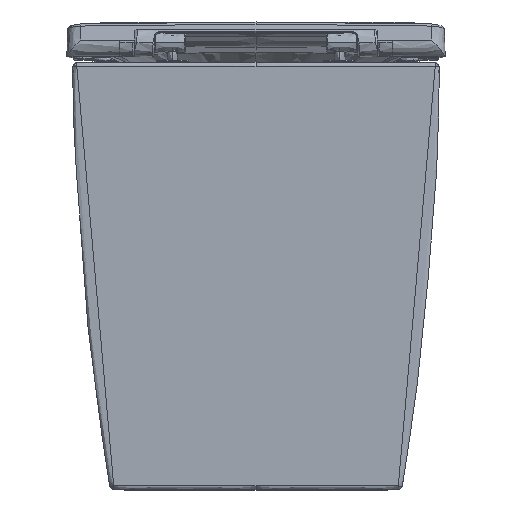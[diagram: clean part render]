
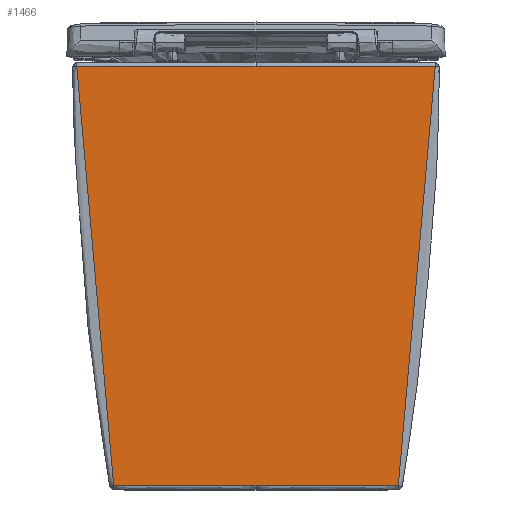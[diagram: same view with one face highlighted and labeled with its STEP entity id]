
A CAD part, left-side view. The second image highlights one B-rep face of the part: STEP entity #1466.
In plain terms, the highlighted planar face has unit normal (1, 0, 0).
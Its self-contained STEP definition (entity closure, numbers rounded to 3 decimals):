
#1466=ADVANCED_FACE('',(#2562),#16521,.T.);
#2562=FACE_OUTER_BOUND('',#3701,.T.);
#3701=EDGE_LOOP('',(#8839,#8840,#8841,#8842,#8843,#8844));
#8839=ORIENTED_EDGE('',*,*,#11644,.T.);
#8840=ORIENTED_EDGE('',*,*,#11643,.F.);
#8841=ORIENTED_EDGE('',*,*,#11614,.F.);
#8842=ORIENTED_EDGE('',*,*,#11648,.F.);
#8843=ORIENTED_EDGE('',*,*,#11647,.T.);
#8844=ORIENTED_EDGE('',*,*,#11636,.T.);
#11614=EDGE_CURVE('',#16241,#16250,#14437,.T.);
#11636=EDGE_CURVE('',#16258,#16263,#14442,.T.);
#11643=EDGE_CURVE('',#16250,#16252,#14449,.T.);
#11644=EDGE_CURVE('',#16263,#16252,#14450,.T.);
#11647=EDGE_CURVE('',#16253,#16258,#14451,.T.);
#11648=EDGE_CURVE('',#16253,#16241,#14452,.T.);
#14437=B_SPLINE_CURVE_WITH_KNOTS('',3,(#223140,#223141,#223142,#223143,
#223144,#223145,#223146,#223147,#223148,#223149,#223150,#223151,#223152,
#223153,#223154,#223155),.UNSPECIFIED.,.F.,.F.,(4,3,3,3,3,4),(769.304,
818.065,870.827,976.352,1081.88,1183.358),
 .UNSPECIFIED.);
#14442=B_SPLINE_CURVE_WITH_KNOTS('',3,(#223495,#223496,#223497,#223498,
#223499,#223500,#223501,#223502,#223503,#223504,#223505,#223506,#223507,
#223508,#223509,#223510),.UNSPECIFIED.,.F.,.F.,(4,3,3,3,3,4),(769.304,
818.065,870.827,976.352,1081.88,1183.358),
 .UNSPECIFIED.);
#14449=B_SPLINE_CURVE_WITH_KNOTS('',3,(#223647,#223648,#223649,#223650),
 .UNSPECIFIED.,.F.,.F.,(4,4),(1456.004,1595.694),
 .UNSPECIFIED.);
#14450=B_SPLINE_CURVE_WITH_KNOTS('',3,(#223651,#223652,#223653,#223654),
 .UNSPECIFIED.,.F.,.F.,(4,4),(-1735.384,-1595.694),
 .UNSPECIFIED.);
#14451=B_SPLINE_CURVE_WITH_KNOTS('',3,(#224025,#224026,#224027,#224028,
#224029,#224030,#224031),.UNSPECIFIED.,.F.,.F.,(4,3,4),(-866.009,
-720.221,-690.067),.UNSPECIFIED.);
#14452=B_SPLINE_CURVE_WITH_KNOTS('',3,(#224032,#224033,#224034,#224035,
#224036,#224037,#224038),.UNSPECIFIED.,.F.,.F.,(4,3,4),(866.009,
1011.796,1041.95),.UNSPECIFIED.);
#16241=VERTEX_POINT('',#222779);
#16250=VERTEX_POINT('',#222788);
#16252=VERTEX_POINT('',#222790);
#16253=VERTEX_POINT('',#222791);
#16258=VERTEX_POINT('',#222796);
#16263=VERTEX_POINT('',#222801);
#16521=PLANE('',#17684);
#17684=AXIS2_PLACEMENT_3D('',#222771,#17960,$);
#17960=DIRECTION('',(1.,0.,0.));
#222771=CARTESIAN_POINT('',(8.006,-440.548,161.24));
#222779=CARTESIAN_POINT('',(8.006,-85.099,157.12));
#222788=CARTESIAN_POINT('',(8.011,-121.35,-254.88));
#222790=CARTESIAN_POINT('',(8.011,-261.04,-254.88));
#222791=CARTESIAN_POINT('',(8.006,-261.04,157.12));
#222796=CARTESIAN_POINT('',(8.006,-436.981,157.12));
#222801=CARTESIAN_POINT('',(8.011,-400.73,-254.88));
#223140=CARTESIAN_POINT('',(8.006,-85.099,157.12));
#223141=CARTESIAN_POINT('',(8.006,-85.052,140.867));
#223142=CARTESIAN_POINT('',(8.006,-85.218,124.612));
#223143=CARTESIAN_POINT('',(8.006,-85.58,108.363));
#223144=CARTESIAN_POINT('',(8.006,-85.972,90.78));
#223145=CARTESIAN_POINT('',(8.006,-86.594,73.202));
#223146=CARTESIAN_POINT('',(8.007,-87.428,55.635));
#223147=CARTESIAN_POINT('',(8.007,-89.095,20.499));
#223148=CARTESIAN_POINT('',(8.007,-91.605,-14.595));
#223149=CARTESIAN_POINT('',(8.007,-94.831,-49.622));
#223150=CARTESIAN_POINT('',(8.008,-98.058,-84.65));
#223151=CARTESIAN_POINT('',(8.008,-102.001,-119.611));
#223152=CARTESIAN_POINT('',(8.009,-106.561,-154.49));
#223153=CARTESIAN_POINT('',(8.01,-110.945,-188.031));
#223154=CARTESIAN_POINT('',(8.01,-115.899,-221.496));
#223155=CARTESIAN_POINT('',(8.011,-121.35,-254.88));
#223495=CARTESIAN_POINT('',(8.006,-436.981,157.12));
#223496=CARTESIAN_POINT('',(8.006,-437.028,140.867));
#223497=CARTESIAN_POINT('',(8.006,-436.862,124.612));
#223498=CARTESIAN_POINT('',(8.006,-436.5,108.363));
#223499=CARTESIAN_POINT('',(8.006,-436.107,90.78));
#223500=CARTESIAN_POINT('',(8.006,-435.485,73.202));
#223501=CARTESIAN_POINT('',(8.007,-434.652,55.635));
#223502=CARTESIAN_POINT('',(8.007,-432.985,20.499));
#223503=CARTESIAN_POINT('',(8.007,-430.475,-14.595));
#223504=CARTESIAN_POINT('',(8.007,-427.249,-49.622));
#223505=CARTESIAN_POINT('',(8.008,-424.022,-84.65));
#223506=CARTESIAN_POINT('',(8.008,-420.078,-119.611));
#223507=CARTESIAN_POINT('',(8.009,-415.519,-154.49));
#223508=CARTESIAN_POINT('',(8.01,-411.134,-188.031));
#223509=CARTESIAN_POINT('',(8.01,-406.18,-221.496));
#223510=CARTESIAN_POINT('',(8.011,-400.73,-254.88));
#223647=CARTESIAN_POINT('',(8.011,-121.35,-254.88));
#223648=CARTESIAN_POINT('',(8.011,-167.913,-254.88));
#223649=CARTESIAN_POINT('',(8.011,-214.476,-254.88));
#223650=CARTESIAN_POINT('',(8.011,-261.04,-254.88));
#223651=CARTESIAN_POINT('',(8.011,-400.73,-254.88));
#223652=CARTESIAN_POINT('',(8.011,-354.167,-254.88));
#223653=CARTESIAN_POINT('',(8.011,-307.603,-254.88));
#223654=CARTESIAN_POINT('',(8.011,-261.04,-254.88));
#224025=CARTESIAN_POINT('',(8.006,-261.04,157.12));
#224026=CARTESIAN_POINT('',(8.006,-309.636,157.12));
#224027=CARTESIAN_POINT('',(8.006,-358.231,157.12));
#224028=CARTESIAN_POINT('',(8.006,-406.827,157.12));
#224029=CARTESIAN_POINT('',(8.006,-416.878,157.12));
#224030=CARTESIAN_POINT('',(8.006,-426.93,157.12));
#224031=CARTESIAN_POINT('',(8.006,-436.981,157.12));
#224032=CARTESIAN_POINT('',(8.006,-261.04,157.12));
#224033=CARTESIAN_POINT('',(8.006,-212.444,157.12));
#224034=CARTESIAN_POINT('',(8.006,-163.848,157.12));
#224035=CARTESIAN_POINT('',(8.006,-115.252,157.12));
#224036=CARTESIAN_POINT('',(8.006,-105.201,157.12));
#224037=CARTESIAN_POINT('',(8.006,-95.15,157.12));
#224038=CARTESIAN_POINT('',(8.006,-85.099,157.12));
